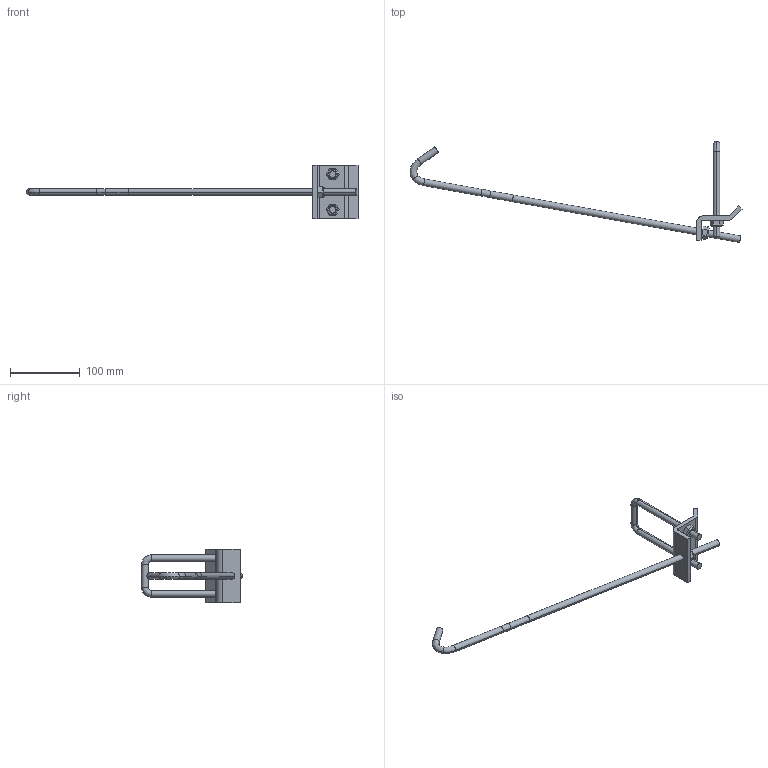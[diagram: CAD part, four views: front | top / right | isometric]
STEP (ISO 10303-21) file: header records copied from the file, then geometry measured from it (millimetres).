
FILE_DESCRIPTION(('TurboCAD Mac Pro'),'Build 980');
FILE_NAME('P2867A-18.stp',' ',(''),(''),'ACIS Interop','IMSI','TurboCAD Mac Pro BY IMSI, INCORPORATED');
FILE_SCHEMA(('automotive_design'));
Length unit declared in the file: inch
Products named in the file (6): 1; 2; 3; 4; 5; 6
Bounding box: 474.58 x 144.4 x 76.2 mm (x, y, z)
Volume: 108194.9 mm3; surface area: 44759.6 mm2
Topology: 6 solids, 6 shells, 100 faces, 226 edges, 138 vertices
Faces by surface type: plane 56, bspline 24, cylinder 20
Entity records: 5640 total; most frequent: CARTESIAN_POINT 1602, ORIENTED_EDGE 452, DIRECTION 382, STYLED_ITEM 304, PRESENTATION_STYLE_ASSIGNMENT 304, COLOUR_RGB 304, EDGE_CURVE 226, CURVE_STYLE 198
